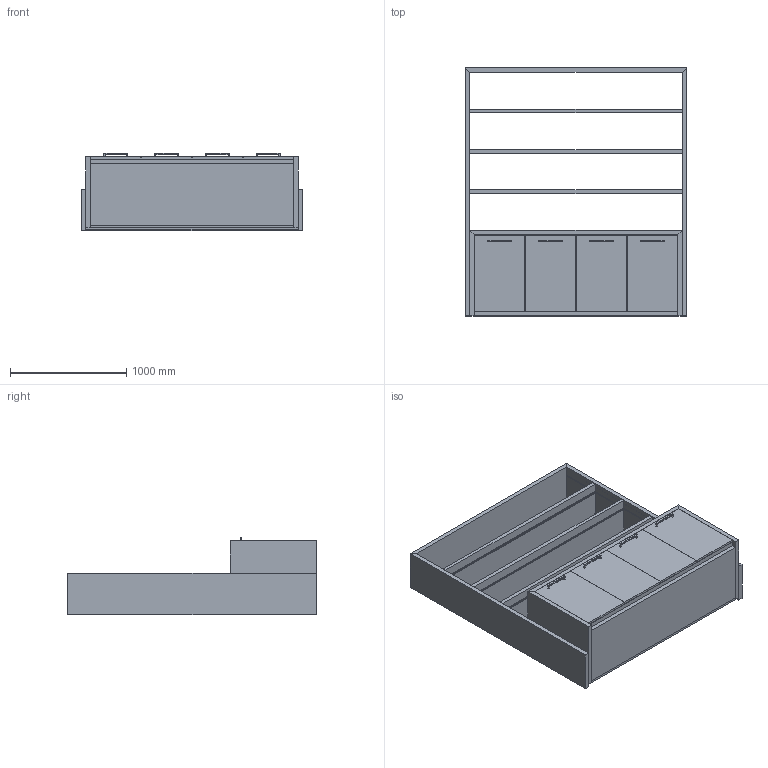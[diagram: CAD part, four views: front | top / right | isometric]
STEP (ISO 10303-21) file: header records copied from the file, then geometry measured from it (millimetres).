
FILE_DESCRIPTION(/* description */ ('','CAx-IF Rec.Pracs.---Representation and Presentation of Product Manufacturing Information (PMI)---4.0---2014-10-13'),/* implementation_level */ '2;1');
FILE_NAME(/* name */ 'CREDENZA STORAGE_FOUNDATION 4.stp',/* time_stamp */ '2024-12-07T18:18:26-05:00',/* author */ ('mbowman'),/* organization */ (''),/* preprocessor_version */ 'ST-DEVELOPER v19.2',/* originating_system */ 'Autodesk Inventor 2023',/* authorisation */ '');
FILE_SCHEMA (('AP242_MANAGED_MODEL_BASED_3D_ENGINEERING_MIM_LF { 1 0 10303 442 1 1 4 }'));
Length unit declared in the file: inch
Products named in the file (5): FOUNDATION^LOW CREDENZA UPPER SHELVES_25x84 4 DOOR-PARTS SOLID; FOUNDATION^LOW CREDENZA UPPER SHELVES_25x84 4 DOOR-PARTS SOLID_1; HAFELE^BUS BAR_ALUMINUM-BUS BAR (MOD LENGTH 60.4375); SCHWINN-BAR PULL 2334.192; HAFELE^BUS BAR LIGHT_ALUMINUM EXTRUSION-LIGHT BAR (MOD LENGTH 71.875)
Assembly tree (10 placements, depth 2):
  FOUNDATION^LOW CREDENZA UPPER SHELVES_25x84 4 DOOR-PARTS SOLID
    FOUNDATION^LOW CREDENZA UPPER SHELVES_25x84 4 DOOR-PARTS SOLID_1
    HAFELE^BUS BAR_ALUMINUM-BUS BAR (MOD LENGTH 60.4375)  x2
    HAFELE^BUS BAR LIGHT_ALUMINUM EXTRUSION-LIGHT BAR (MOD LENGTH 71.875)  x3
    SCHWINN-BAR PULL 2334.192  x4
Bounding box: 1905 x 2133.6 x 665 mm (x, y, z)
Volume: 336983651.9 mm3; surface area: 25770276.4 mm2
Topology: 49 solids, 49 shells, 658 faces, 1356 edges, 904 vertices
Faces by surface type: plane 516, cylinder 136, bspline 6
Full cylindrical faces by diameter (mm): 5 x108, 7 x6, 7.7 x6
Entity records: 13557 total; most frequent: CARTESIAN_POINT 2621, DIRECTION 2165, ORIENTED_EDGE 1806, EDGE_CURVE 903, AXIS2_PLACEMENT_3D 752, LINE 661, VECTOR 661, VERTEX_POINT 602
